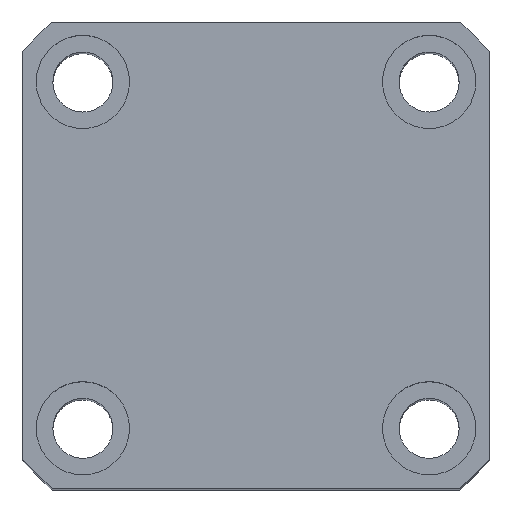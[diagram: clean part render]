
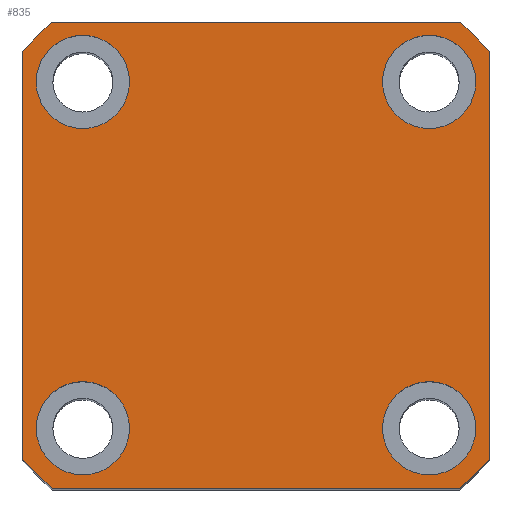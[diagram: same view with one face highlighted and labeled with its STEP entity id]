
A CAD part, top view. The second image highlights one B-rep face of the part: STEP entity #835.
In plain terms, the highlighted planar face has unit normal (0, 0, 1).
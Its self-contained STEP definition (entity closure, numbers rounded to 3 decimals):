
#244 = EDGE_LOOP ( 'NONE', ( #10371, #2719, #11686, #1559, #4370, #2249, #7775, #5664 ) ) ;
#433 = EDGE_CURVE ( 'NONE', #13344, #5533, #863, .T. ) ;
#493 = VERTEX_POINT ( 'NONE', #4276 ) ;
#506 = DIRECTION ( 'NONE',  ( 0., 1., 0. ) ) ;
#521 = DIRECTION ( 'NONE',  ( 1., 0., 0. ) ) ;
#647 = VERTEX_POINT ( 'NONE', #9197 ) ;
#665 = CARTESIAN_POINT ( 'NONE',  ( 35., 30.615, 155. ) ) ;
#769 = VERTEX_POINT ( 'NONE', #12052 ) ;
#835 = ADVANCED_FACE ( 'NONE', ( #11129, #2829, #3167, #8026, #5287 ), #6015, .T. ) ;
#863 = CIRCLE ( 'NONE', #6162, 46.5 ) ;
#901 = DIRECTION ( 'NONE',  ( 0., 0., 1. ) ) ;
#907 = CARTESIAN_POINT ( 'NONE',  ( -35., -30.615, 155. ) ) ;
#1200 = DIRECTION ( 'NONE',  ( 0., 0., 1. ) ) ;
#1415 = AXIS2_PLACEMENT_3D ( 'NONE', #4797, #3155, #3109 ) ;
#1535 = DIRECTION ( 'NONE',  ( 0., 0., 1. ) ) ;
#1546 = AXIS2_PLACEMENT_3D ( 'NONE', #5777, #13041, #6829 ) ;
#1559 = ORIENTED_EDGE ( 'NONE', *, *, #12117, .T. ) ;
#1562 = VERTEX_POINT ( 'NONE', #9363 ) ;
#1697 = VERTEX_POINT ( 'NONE', #3878 ) ;
#1716 = ORIENTED_EDGE ( 'NONE', *, *, #11389, .F. ) ;
#1743 = VECTOR ( 'NONE', #506, 1000. ) ;
#1932 = CIRCLE ( 'NONE', #8353, 7. ) ;
#2249 = ORIENTED_EDGE ( 'NONE', *, *, #2542, .T. ) ;
#2463 = CARTESIAN_POINT ( 'NONE',  ( 0., 0., 155. ) ) ;
#2542 = EDGE_CURVE ( 'NONE', #5965, #1697, #11560, .T. ) ;
#2546 = DIRECTION ( 'NONE',  ( 0., 0., 1. ) ) ;
#2583 = EDGE_CURVE ( 'NONE', #6677, #647, #3264, .T. ) ;
#2617 = AXIS2_PLACEMENT_3D ( 'NONE', #9646, #3410, #10682 ) ;
#2628 = VERTEX_POINT ( 'NONE', #5964 ) ;
#2719 = ORIENTED_EDGE ( 'NONE', *, *, #433, .T. ) ;
#2777 = CARTESIAN_POINT ( 'NONE',  ( 0., 0., 155. ) ) ;
#2828 = CARTESIAN_POINT ( 'NONE',  ( 26., -26., 155. ) ) ;
#2829 = FACE_BOUND ( 'NONE', #5107, .T. ) ;
#3104 = EDGE_CURVE ( 'NONE', #1697, #6631, #4563, .T. ) ;
#3109 = DIRECTION ( 'NONE',  ( 1., 0., 0. ) ) ;
#3155 = DIRECTION ( 'NONE',  ( 0., 0., 1. ) ) ;
#3167 = FACE_BOUND ( 'NONE', #13163, .T. ) ;
#3174 = EDGE_CURVE ( 'NONE', #5801, #2628, #12190, .T. ) ;
#3232 = DIRECTION ( 'NONE',  ( 0., -1., 0. ) ) ;
#3264 = CIRCLE ( 'NONE', #11221, 7. ) ;
#3366 = ORIENTED_EDGE ( 'NONE', *, *, #6241, .F. ) ;
#3373 = CARTESIAN_POINT ( 'NONE',  ( -35., -35., 155. ) ) ;
#3410 = DIRECTION ( 'NONE',  ( 0., 0., 1. ) ) ;
#3519 = DIRECTION ( 'NONE',  ( 1., 0., 0. ) ) ;
#3571 = DIRECTION ( 'NONE',  ( 0., 0., 1. ) ) ;
#3617 = CIRCLE ( 'NONE', #10900, 7. ) ;
#3744 = VERTEX_POINT ( 'NONE', #7132 ) ;
#3789 = EDGE_CURVE ( 'NONE', #647, #6677, #1932, .T. ) ;
#3837 = DIRECTION ( 'NONE',  ( 1., 0., 0. ) ) ;
#3878 = CARTESIAN_POINT ( 'NONE',  ( -30.615, -35., 155. ) ) ;
#3886 = DIRECTION ( 'NONE',  ( 1., 0., 0. ) ) ;
#4186 = EDGE_CURVE ( 'NONE', #769, #13344, #10073, .T. ) ;
#4276 = CARTESIAN_POINT ( 'NONE',  ( -33., 26., 155. ) ) ;
#4370 = ORIENTED_EDGE ( 'NONE', *, *, #10628, .T. ) ;
#4451 = AXIS2_PLACEMENT_3D ( 'NONE', #9801, #3571, #10841 ) ;
#4484 = CARTESIAN_POINT ( 'NONE',  ( 19., -26., 155. ) ) ;
#4563 = LINE ( 'NONE', #3373, #10083 ) ;
#4595 = CIRCLE ( 'NONE', #9446, 7. ) ;
#4797 = CARTESIAN_POINT ( 'NONE',  ( 0., 0., 155. ) ) ;
#4847 = CARTESIAN_POINT ( 'NONE',  ( 33., 26., 155. ) ) ;
#4897 = CIRCLE ( 'NONE', #2617, 7. ) ;
#5094 = LINE ( 'NONE', #12320, #5360 ) ;
#5107 = EDGE_LOOP ( 'NONE', ( #9221, #9877 ) ) ;
#5113 = CIRCLE ( 'NONE', #7595, 7. ) ;
#5287 = FACE_OUTER_BOUND ( 'NONE', #244, .T. ) ;
#5360 = VECTOR ( 'NONE', #6106, 1000. ) ;
#5511 = DIRECTION ( 'NONE',  ( 0., 0., 1. ) ) ;
#5533 = VERTEX_POINT ( 'NONE', #6370 ) ;
#5641 = CARTESIAN_POINT ( 'NONE',  ( 0., 0., 155. ) ) ;
#5664 = ORIENTED_EDGE ( 'NONE', *, *, #6795, .T. ) ;
#5687 = DIRECTION ( 'NONE',  ( 1., 0., 0. ) ) ;
#5721 = LINE ( 'NONE', #9461, #8157 ) ;
#5777 = CARTESIAN_POINT ( 'NONE',  ( 26., 26., 155. ) ) ;
#5801 = VERTEX_POINT ( 'NONE', #4847 ) ;
#5964 = CARTESIAN_POINT ( 'NONE',  ( 19., 26., 155. ) ) ;
#5965 = VERTEX_POINT ( 'NONE', #907 ) ;
#6015 = PLANE ( 'NONE',  #1415 ) ;
#6106 = DIRECTION ( 'NONE',  ( -1., 0., 0. ) ) ;
#6160 = CARTESIAN_POINT ( 'NONE',  ( -35., 30.615, 155. ) ) ;
#6162 = AXIS2_PLACEMENT_3D ( 'NONE', #5641, #5511, #5687 ) ;
#6241 = EDGE_CURVE ( 'NONE', #3744, #11377, #4595, .T. ) ;
#6310 = ORIENTED_EDGE ( 'NONE', *, *, #8667, .F. ) ;
#6370 = CARTESIAN_POINT ( 'NONE',  ( 30.615, 35., 155. ) ) ;
#6631 = VERTEX_POINT ( 'NONE', #12706 ) ;
#6677 = VERTEX_POINT ( 'NONE', #4484 ) ;
#6795 = EDGE_CURVE ( 'NONE', #6631, #769, #12579, .T. ) ;
#6804 = DIRECTION ( 'NONE',  ( 0., 0., 1. ) ) ;
#6829 = DIRECTION ( 'NONE',  ( 1., 0., 0. ) ) ;
#7132 = CARTESIAN_POINT ( 'NONE',  ( -33., -26., 155. ) ) ;
#7182 = CARTESIAN_POINT ( 'NONE',  ( 26., -26., 155. ) ) ;
#7467 = CARTESIAN_POINT ( 'NONE',  ( -26., 26., 155. ) ) ;
#7595 = AXIS2_PLACEMENT_3D ( 'NONE', #7467, #1200, #8504 ) ;
#7775 = ORIENTED_EDGE ( 'NONE', *, *, #3104, .T. ) ;
#7793 = CARTESIAN_POINT ( 'NONE',  ( 0., 0., 155. ) ) ;
#7814 = CIRCLE ( 'NONE', #7915, 46.5 ) ;
#7915 = AXIS2_PLACEMENT_3D ( 'NONE', #7793, #1535, #8836 ) ;
#8026 = FACE_BOUND ( 'NONE', #9849, .T. ) ;
#8047 = EDGE_CURVE ( 'NONE', #11377, #3744, #3617, .T. ) ;
#8124 = EDGE_CURVE ( 'NONE', #2628, #5801, #9135, .T. ) ;
#8157 = VECTOR ( 'NONE', #3232, 1000. ) ;
#8207 = DIRECTION ( 'NONE',  ( 1., 0., 0. ) ) ;
#8244 = ORIENTED_EDGE ( 'NONE', *, *, #8047, .F. ) ;
#8353 = AXIS2_PLACEMENT_3D ( 'NONE', #7182, #901, #8207 ) ;
#8358 = EDGE_CURVE ( 'NONE', #5533, #8868, #5094, .T. ) ;
#8408 = ORIENTED_EDGE ( 'NONE', *, *, #8124, .F. ) ;
#8504 = DIRECTION ( 'NONE',  ( 1., 0., 0. ) ) ;
#8667 = EDGE_CURVE ( 'NONE', #1562, #493, #5113, .T. ) ;
#8772 = CARTESIAN_POINT ( 'NONE',  ( -26., -26., 155. ) ) ;
#8836 = DIRECTION ( 'NONE',  ( 1., 0., 0. ) ) ;
#8868 = VERTEX_POINT ( 'NONE', #10946 ) ;
#9135 = CIRCLE ( 'NONE', #1546, 7. ) ;
#9197 = CARTESIAN_POINT ( 'NONE',  ( 33., -26., 155. ) ) ;
#9221 = ORIENTED_EDGE ( 'NONE', *, *, #3789, .F. ) ;
#9363 = CARTESIAN_POINT ( 'NONE',  ( -19., 26., 155. ) ) ;
#9446 = AXIS2_PLACEMENT_3D ( 'NONE', #13018, #6804, #521 ) ;
#9461 = CARTESIAN_POINT ( 'NONE',  ( -35., 35., 155. ) ) ;
#9598 = CARTESIAN_POINT ( 'NONE',  ( -19., -26., 155. ) ) ;
#9646 = CARTESIAN_POINT ( 'NONE',  ( -26., 26., 155. ) ) ;
#9746 = DIRECTION ( 'NONE',  ( 0., 0., 1. ) ) ;
#9801 = CARTESIAN_POINT ( 'NONE',  ( 26., 26., 155. ) ) ;
#9833 = DIRECTION ( 'NONE',  ( 1., 0., 0. ) ) ;
#9839 = AXIS2_PLACEMENT_3D ( 'NONE', #2777, #10059, #3837 ) ;
#9849 = EDGE_LOOP ( 'NONE', ( #6310, #1716 ) ) ;
#9877 = ORIENTED_EDGE ( 'NONE', *, *, #2583, .F. ) ;
#10059 = DIRECTION ( 'NONE',  ( 0., 0., 1. ) ) ;
#10073 = LINE ( 'NONE', #11871, #1743 ) ;
#10083 = VECTOR ( 'NONE', #11696, 1000. ) ;
#10105 = DIRECTION ( 'NONE',  ( 0., 0., 1. ) ) ;
#10371 = ORIENTED_EDGE ( 'NONE', *, *, #4186, .T. ) ;
#10596 = AXIS2_PLACEMENT_3D ( 'NONE', #2463, #9746, #3519 ) ;
#10628 = EDGE_CURVE ( 'NONE', #12879, #5965, #5721, .T. ) ;
#10682 = DIRECTION ( 'NONE',  ( 1., 0., 0. ) ) ;
#10697 = EDGE_LOOP ( 'NONE', ( #8244, #3366 ) ) ;
#10841 = DIRECTION ( 'NONE',  ( 1., 0., 0. ) ) ;
#10900 = AXIS2_PLACEMENT_3D ( 'NONE', #8772, #2546, #9833 ) ;
#10946 = CARTESIAN_POINT ( 'NONE',  ( -30.615, 35., 155. ) ) ;
#11129 = FACE_BOUND ( 'NONE', #10697, .T. ) ;
#11221 = AXIS2_PLACEMENT_3D ( 'NONE', #2828, #10105, #3886 ) ;
#11377 = VERTEX_POINT ( 'NONE', #9598 ) ;
#11389 = EDGE_CURVE ( 'NONE', #493, #1562, #4897, .T. ) ;
#11560 = CIRCLE ( 'NONE', #9839, 46.5 ) ;
#11686 = ORIENTED_EDGE ( 'NONE', *, *, #8358, .T. ) ;
#11696 = DIRECTION ( 'NONE',  ( 1., 0., 0. ) ) ;
#11871 = CARTESIAN_POINT ( 'NONE',  ( 35., 35., 155. ) ) ;
#12052 = CARTESIAN_POINT ( 'NONE',  ( 35., -30.615, 155. ) ) ;
#12117 = EDGE_CURVE ( 'NONE', #8868, #12879, #7814, .T. ) ;
#12190 = CIRCLE ( 'NONE', #4451, 7. ) ;
#12320 = CARTESIAN_POINT ( 'NONE',  ( -35., 35., 155. ) ) ;
#12579 = CIRCLE ( 'NONE', #10596, 46.5 ) ;
#12706 = CARTESIAN_POINT ( 'NONE',  ( 30.615, -35., 155. ) ) ;
#12879 = VERTEX_POINT ( 'NONE', #6160 ) ;
#13018 = CARTESIAN_POINT ( 'NONE',  ( -26., -26., 155. ) ) ;
#13041 = DIRECTION ( 'NONE',  ( 0., 0., 1. ) ) ;
#13163 = EDGE_LOOP ( 'NONE', ( #13282, #8408 ) ) ;
#13282 = ORIENTED_EDGE ( 'NONE', *, *, #3174, .F. ) ;
#13344 = VERTEX_POINT ( 'NONE', #665 ) ;
